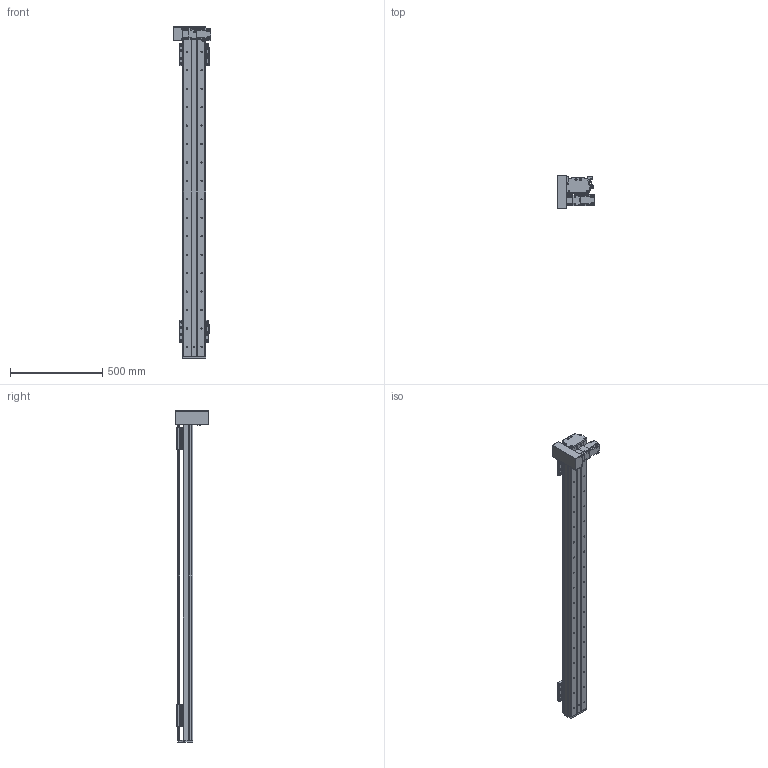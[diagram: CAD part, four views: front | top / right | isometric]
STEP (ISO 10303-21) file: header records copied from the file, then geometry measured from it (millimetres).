
FILE_DESCRIPTION(/* description */ (''),/* implementation_level */ '2;1');
FILE_NAME(/* name */ 'C:\Users\PC\Desktop\3D도면\STEP\DSB125-DL2G-W1500-R.stp',/* time_stamp */ '2018-06-21T14:53:37+09:00',/* author */ ('PC'),/* organization */ (''),/* preprocessor_version */ 'ST-DEVELOPER v16.5',/* originating_system */ 'Autodesk Inventor 2017',/* authorisation */ '');
FILE_SCHEMA (('AUTOMOTIVE_DESIGN { 1 0 10303 214 3 1 1 }'));
Length unit declared in the file: millimetre
Products named in the file (12): DSB125-L-300ST; DSR125-BASE(S-TYPE); DSR125-REAR COVER-R01(170203); DSR125-REAR COVER-R01(170203)_1; DSR125-UP COVER-R01(170203); hg-kr23_; ab0601-p0401200402; 13-BELT COVER; DSR126-SENSOR DOG; pm-y65_step; SENSOR BRACKET(EE-SX674A); DSR125-TABLE(MSA15X)
Assembly tree (16 placements, depth 2):
  DSB125-L-300ST
    DSR125-BASE(S-TYPE)
    DSR125-REAR COVER-R01(170203)
    DSR125-REAR COVER-R01(170203)_1
    DSR125-UP COVER-R01(170203)
    hg-kr23_
    ab0601-p0401200402
    13-BELT COVER
    DSR126-SENSOR DOG
    pm-y65_step  x3
    SENSOR BRACKET(EE-SX674A)  x3
    DSR125-TABLE(MSA15X)  x2
Bounding box: 202.1 x 182 x 1800 mm (x, y, z)
Volume: 6222243.4 mm3; surface area: 1790297.9 mm2
Topology: 17 solids, 22 shells, 1693 faces, 4581 edges, 3018 vertices
Faces by surface type: plane 908, cylinder 647, cone 126, sphere 8, torus 4
Full cylindrical faces by diameter (mm): 2.459 x20, 3.242 x16, 3.5 x6, 4 x1, 4.134 x16, 4.2 x4, 4.3 x1, 4.5 x50, 4.917 x20, 5 x27, 5.3 x1, 5.5 x4, 5.6 x8, 5.8 x4, 5.9 x8, 6 x4, 6.6 x22, 6.647 x36, 7.5 x32, 8.5 x8, 8.7 x1, 11 x22, 14 x1, 16 x2, 17 x1, 20 x1, 47 x1, 50 x3
Entity records: 35990 total; most frequent: CARTESIAN_POINT 6595, DIRECTION 6252, ORIENTED_EDGE 5542, EDGE_CURVE 2776, AXIS2_PLACEMENT_3D 2314, VERTEX_POINT 1985, EDGE_LOOP 1737, LINE 1624
